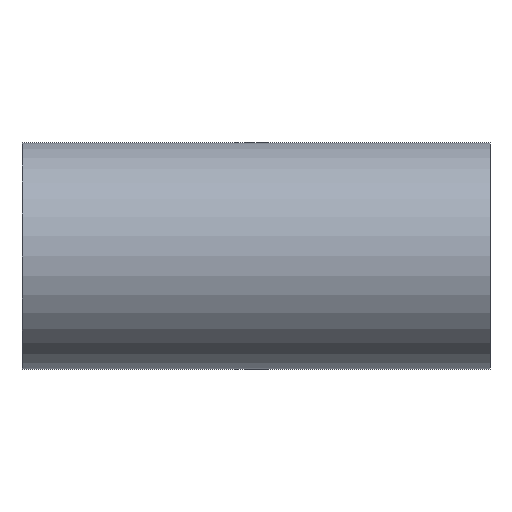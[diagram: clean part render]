
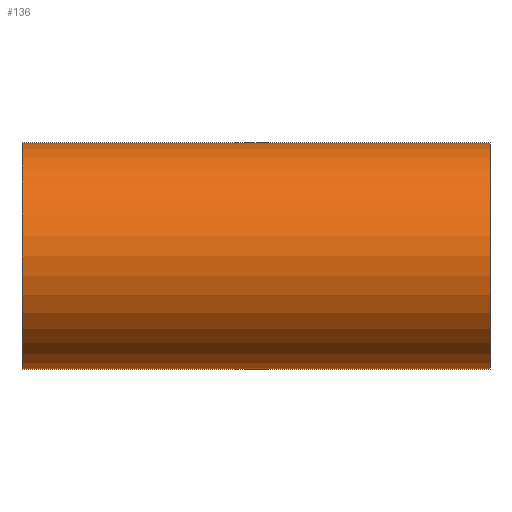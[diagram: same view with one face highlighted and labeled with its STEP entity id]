
A CAD part, front view. The second image highlights one B-rep face of the part: STEP entity #136.
In plain terms, the highlighted cylindrical face has radius 50.8 mm (diameter 101.6 mm), a partial arc.
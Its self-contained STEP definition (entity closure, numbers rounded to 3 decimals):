
#7 = VERTEX_POINT ( 'NONE', #390 ) ;
#8 = DIRECTION ( 'NONE',  ( 1., 0., 0. ) ) ;
#46 = EDGE_CURVE ( 'NONE', #692, #588, #448, .T. ) ;
#80 = VERTEX_POINT ( 'NONE', #595 ) ;
#92 = LINE ( 'NONE', #375, #259 ) ;
#99 = CARTESIAN_POINT ( 'NONE',  ( 104.8, 0., 50.8 ) ) ;
#117 = LINE ( 'NONE', #320, #659 ) ;
#127 = AXIS2_PLACEMENT_3D ( 'NONE', #433, #563, #289 ) ;
#136 = ADVANCED_FACE ( 'NONE', ( #570 ), #210, .T. ) ;
#187 = ORIENTED_EDGE ( 'NONE', *, *, #733, .T. ) ;
#188 = ORIENTED_EDGE ( 'NONE', *, *, #542, .F. ) ;
#210 = CYLINDRICAL_SURFACE ( 'NONE', #794, 50.8 ) ;
#211 = CARTESIAN_POINT ( 'NONE',  ( -104.8, 0., 0. ) ) ;
#250 = ORIENTED_EDGE ( 'NONE', *, *, #677, .T. ) ;
#259 = VECTOR ( 'NONE', #761, 1000. ) ;
#270 = DIRECTION ( 'NONE',  ( 1., 0., 0. ) ) ;
#280 = DIRECTION ( 'NONE',  ( 0., 0., -1. ) ) ;
#289 = DIRECTION ( 'NONE',  ( 0., 0., -1. ) ) ;
#320 = CARTESIAN_POINT ( 'NONE',  ( -104.8, 0., 50.8 ) ) ;
#367 = ORIENTED_EDGE ( 'NONE', *, *, #46, .T. ) ;
#375 = CARTESIAN_POINT ( 'NONE',  ( -104.8, 0., -50.8 ) ) ;
#390 = CARTESIAN_POINT ( 'NONE',  ( -104.8, 0., 50.8 ) ) ;
#433 = CARTESIAN_POINT ( 'NONE',  ( -104.8, 0., 0. ) ) ;
#443 = CIRCLE ( 'NONE', #127, 50.8 ) ;
#448 = CIRCLE ( 'NONE', #457, 50.8 ) ;
#457 = AXIS2_PLACEMENT_3D ( 'NONE', #470, #779, #848 ) ;
#470 = CARTESIAN_POINT ( 'NONE',  ( 104.8, 0., 0. ) ) ;
#542 = EDGE_CURVE ( 'NONE', #7, #588, #117, .T. ) ;
#563 = DIRECTION ( 'NONE',  ( 1., 0., 0. ) ) ;
#570 = FACE_OUTER_BOUND ( 'NONE', #649, .T. ) ;
#588 = VERTEX_POINT ( 'NONE', #99 ) ;
#591 = CARTESIAN_POINT ( 'NONE',  ( 104.8, 0., -50.8 ) ) ;
#595 = CARTESIAN_POINT ( 'NONE',  ( -104.8, 0., -50.8 ) ) ;
#649 = EDGE_LOOP ( 'NONE', ( #188, #187, #250, #367 ) ) ;
#659 = VECTOR ( 'NONE', #8, 1000. ) ;
#677 = EDGE_CURVE ( 'NONE', #80, #692, #92, .T. ) ;
#692 = VERTEX_POINT ( 'NONE', #591 ) ;
#733 = EDGE_CURVE ( 'NONE', #7, #80, #443, .T. ) ;
#761 = DIRECTION ( 'NONE',  ( 1., 0., 0. ) ) ;
#779 = DIRECTION ( 'NONE',  ( -1., 0., 0. ) ) ;
#794 = AXIS2_PLACEMENT_3D ( 'NONE', #211, #270, #280 ) ;
#848 = DIRECTION ( 'NONE',  ( 0., 0., -1. ) ) ;
